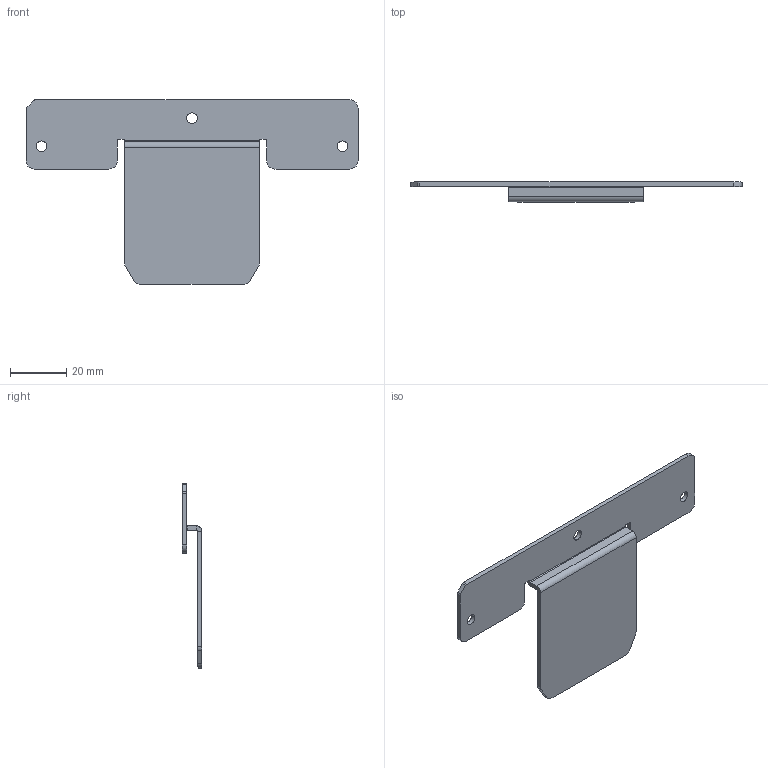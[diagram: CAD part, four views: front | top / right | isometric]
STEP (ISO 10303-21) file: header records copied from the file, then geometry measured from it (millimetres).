
FILE_DESCRIPTION((''),'2;1');
FILE_NAME('890_PLATE_89165','2025-01-23T16:32:40',('0092109'),(''),'CREO PARAMETRIC BY PTC INC, 2022281','CREO PARAMETRIC BY PTC INC, 2022281','');
FILE_SCHEMA(('AUTOMOTIVE_DESIGN { 1 0 10303 214 1 1 1 1 }'));
Length unit declared in the file: millimetre
Products named in the file (1): 890_PLATE_89165
Bounding box: 118 x 7 x 65.5 mm (x, y, z)
Volume: 7913.2 mm3; surface area: 10587.8 mm2
Topology: 1 solids, 1 shells, 55 faces, 143 edges, 90 vertices
Faces by surface type: plane 30, cylinder 25
Entity records: 2307 total; most frequent: DIRECTION 301, CARTESIAN_POINT 300, ORIENTED_EDGE 286, PRESENTATION_STYLE_ASSIGNMENT 144, STYLED_ITEM 144, CURVE_STYLE 143, EDGE_CURVE 143, COLOUR_RGB 120
